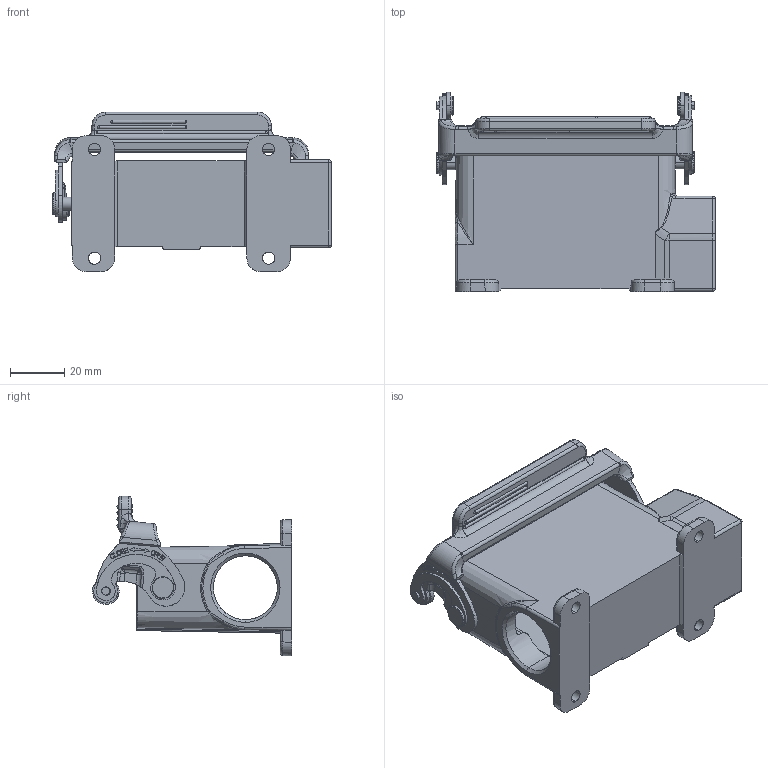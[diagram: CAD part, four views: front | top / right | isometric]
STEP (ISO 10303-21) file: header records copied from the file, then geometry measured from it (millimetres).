
FILE_DESCRIPTION (( 'STEP AP203' ), '1' );
FILE_NAME ('H16A-SGR-2M25.STEP', '2023-05-11T12:17:52', ( '' ), ( '' ), 'SwSTEP 2.0', 'SolidWorks 2016', '' );
FILE_SCHEMA (( 'CONFIG_CONTROL_DESIGN' ));
Length unit declared in the file: millimetre
Products named in the file (1): H16A-SGR-2M25
Bounding box: 102.35 x 73.21 x 58.61 mm (x, y, z)
Volume: 68934.2 mm3; surface area: 39208.3 mm2
Topology: 1 solids, 13 shells, 1038 faces, 2820 edges, 1831 vertices
Faces by surface type: plane 369, bspline 322, cylinder 299, cone 47, torus 1
Entity records: 50850 total; most frequent: CARTESIAN_POINT 29033, ORIENTED_EDGE 5576, EDGE_CURVE 2788, DIRECTION 2756, VERTEX_POINT 1831, B_SPLINE_CURVE_WITH_KNOTS 1520, EDGE_LOOP 1125, LINE 1040
